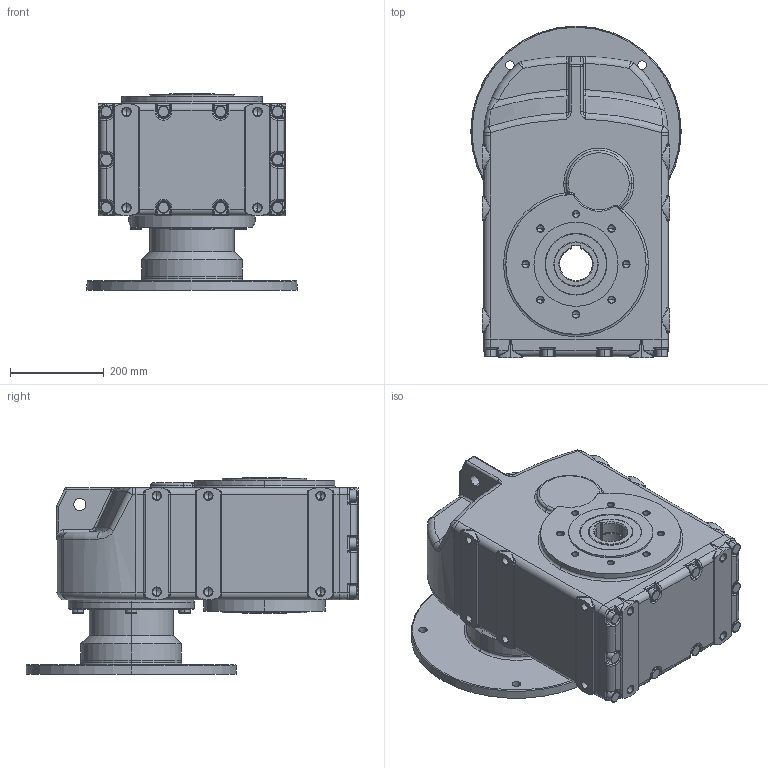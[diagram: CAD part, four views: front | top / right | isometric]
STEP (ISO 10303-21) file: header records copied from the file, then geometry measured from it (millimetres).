
FILE_DESCRIPTION (( 'STEP AP214' ), '1' );
FILE_NAME ('tnc62-f400-ap225.STEP', '2009-09-17T10:35:45', ( '' ), ( '' ), 'SwSTEP 2.0', 'SolidWorks 2003240', '' );
FILE_SCHEMA (( 'AUTOMOTIVE_DESIGN' ));
Products named in the file (4): Skøíò TNC6_Skøíò TNC62 AP225; D6912_Šroub DIN 6912 - M16x40; Priruba MTC82A_350-400-450; tnc62-f400-ap225
Assembly tree (8 placements, depth 2):
  tnc62-f400-ap225
    D6912_Šroub DIN 6912 - M16x40  x6
    Priruba MTC82A_350-400-450
    Skøíò TNC6_Skøíò TNC62 AP225
Bounding box: 450 x 710 x 420 mm (x, y, z)
Volume: 63561292.2 mm3; surface area: 1632033 mm2
Topology: 8 solids, 8 shells, 1261 faces, 2843 edges, 1542 vertices
Faces by surface type: cylinder 429, plane 251, cone 222, bspline 176, torus 170, sphere 13
Entity records: 132722 total; most frequent: CARTESIAN_POINT 108604, DIRECTION 5088, ORIENTED_EDGE 4778, EDGE_CURVE 2389, AXIS2_PLACEMENT_3D 2122, VERTEX_POINT 1387, CIRCLE 1211, EDGE_LOOP 1170
